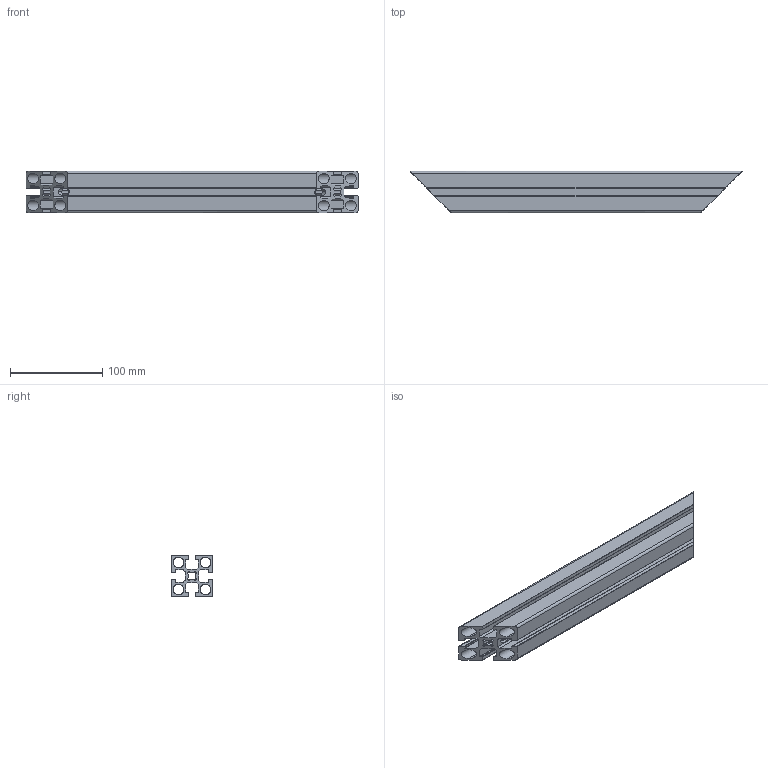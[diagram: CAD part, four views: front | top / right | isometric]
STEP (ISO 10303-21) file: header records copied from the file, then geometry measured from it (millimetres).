
FILE_DESCRIPTION (( 'STEP AP214' ), '1' );
FILE_NAME ('1.5036 Kulmatuki 45.STEP', '2024-10-08T12:50:27', ( '' ), ( '' ), 'SwSTEP 2.0', 'SolidWorks 2024', '' );
FILE_SCHEMA (( 'AUTOMOTIVE_DESIGN' ));
Length unit declared in the file: millimetre
Products named in the file (1): 1.5036 Kulmatuki 45
Bounding box: 360 x 45 x 45 mm (x, y, z)
Volume: 253558.1 mm3; surface area: 163272.7 mm2
Topology: 1 solids, 1 shells, 237 faces, 723 edges, 482 vertices
Faces by surface type: cylinder 139, plane 98
Entity records: 8668 total; most frequent: CARTESIAN_POINT 3003, ORIENTED_EDGE 1446, DIRECTION 873, EDGE_CURVE 723, VERTEX_POINT 482, VECTOR 381, LINE 381, EDGE_LOOP 249
